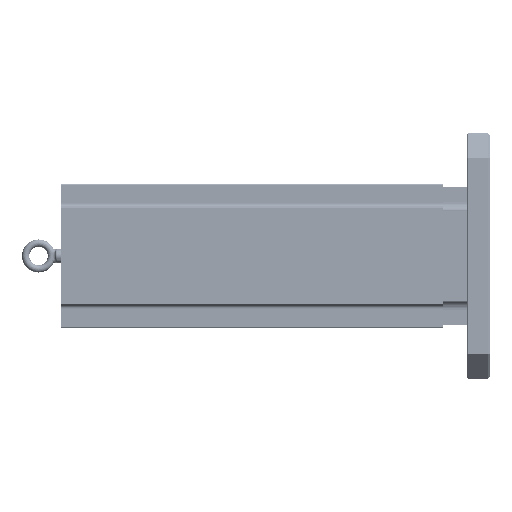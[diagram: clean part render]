
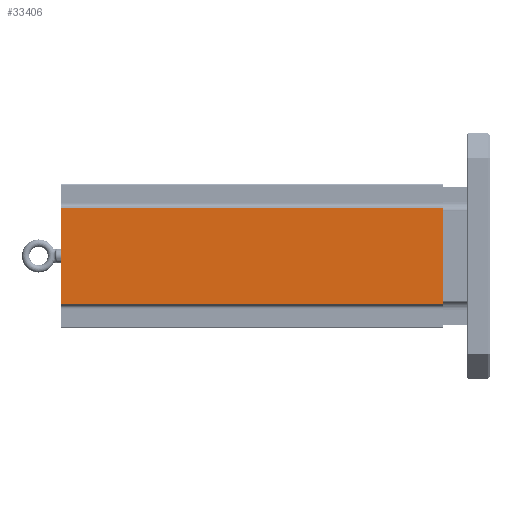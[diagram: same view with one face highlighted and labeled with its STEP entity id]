
A CAD part, left-side view. The second image highlights one B-rep face of the part: STEP entity #33406.
In plain terms, the highlighted planar face has unit normal (-1, 0, 0).
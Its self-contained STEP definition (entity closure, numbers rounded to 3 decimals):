
#515 = CARTESIAN_POINT ( 'NONE',  ( -116.992, 38.1, -78.511 ) ) ;
#3183 = DIRECTION ( 'NONE',  ( 0., -1., 0. ) ) ;
#5552 = ORIENTED_EDGE ( 'NONE', *, *, #8477, .T. ) ;
#6095 = LINE ( 'NONE', #32087, #25728 ) ;
#6967 = DIRECTION ( 'NONE',  ( 1., 0., 0. ) ) ;
#7876 = VERTEX_POINT ( 'NONE', #20566 ) ;
#8125 = LINE ( 'NONE', #12944, #12757 ) ;
#8477 = EDGE_CURVE ( 'NONE', #19113, #15445, #6095, .T. ) ;
#8693 = EDGE_CURVE ( 'NONE', #7876, #15445, #9847, .T. ) ;
#8754 = AXIS2_PLACEMENT_3D ( 'NONE', #17047, #6967, #19960 ) ;
#9204 = EDGE_LOOP ( 'NONE', ( #33740, #26942, #17329, #5552 ) ) ;
#9847 = LINE ( 'NONE', #23499, #25535 ) ;
#11287 = VECTOR ( 'NONE', #28231, 1000. ) ;
#11986 = CARTESIAN_POINT ( 'NONE',  ( -116.992, 662., 78.511 ) ) ;
#12757 = VECTOR ( 'NONE', #15659, 1000. ) ;
#12944 = CARTESIAN_POINT ( 'NONE',  ( -116.992, 662., -79.273 ) ) ;
#13090 = DIRECTION ( 'NONE',  ( 0., 0., -1. ) ) ;
#13220 = VERTEX_POINT ( 'NONE', #11986 ) ;
#15445 = VERTEX_POINT ( 'NONE', #515 ) ;
#15659 = DIRECTION ( 'NONE',  ( 0., 0., 1. ) ) ;
#17047 = CARTESIAN_POINT ( 'NONE',  ( -116.992, 662., -79.273 ) ) ;
#17329 = ORIENTED_EDGE ( 'NONE', *, *, #20651, .F. ) ;
#17812 = LINE ( 'NONE', #32876, #11287 ) ;
#19113 = VERTEX_POINT ( 'NONE', #20634 ) ;
#19960 = DIRECTION ( 'NONE',  ( 0., 0., -1. ) ) ;
#20566 = CARTESIAN_POINT ( 'NONE',  ( -116.992, 38.1, 78.511 ) ) ;
#20634 = CARTESIAN_POINT ( 'NONE',  ( -116.992, 662., -78.511 ) ) ;
#20651 = EDGE_CURVE ( 'NONE', #19113, #13220, #8125, .T. ) ;
#23499 = CARTESIAN_POINT ( 'NONE',  ( -116.992, 38.1, -79.273 ) ) ;
#25076 = FACE_OUTER_BOUND ( 'NONE', #9204, .T. ) ;
#25535 = VECTOR ( 'NONE', #13090, 1000. ) ;
#25728 = VECTOR ( 'NONE', #3183, 1000. ) ;
#26565 = EDGE_CURVE ( 'NONE', #7876, #13220, #17812, .T. ) ;
#26942 = ORIENTED_EDGE ( 'NONE', *, *, #26565, .T. ) ;
#28231 = DIRECTION ( 'NONE',  ( 0., 1., 0. ) ) ;
#30541 = PLANE ( 'NONE',  #8754 ) ;
#32087 = CARTESIAN_POINT ( 'NONE',  ( -116.992, 662., -78.511 ) ) ;
#32876 = CARTESIAN_POINT ( 'NONE',  ( -116.992, 662., 78.511 ) ) ;
#33406 = ADVANCED_FACE ( 'NONE', ( #25076 ), #30541, .F. ) ;
#33740 = ORIENTED_EDGE ( 'NONE', *, *, #8693, .F. ) ;
